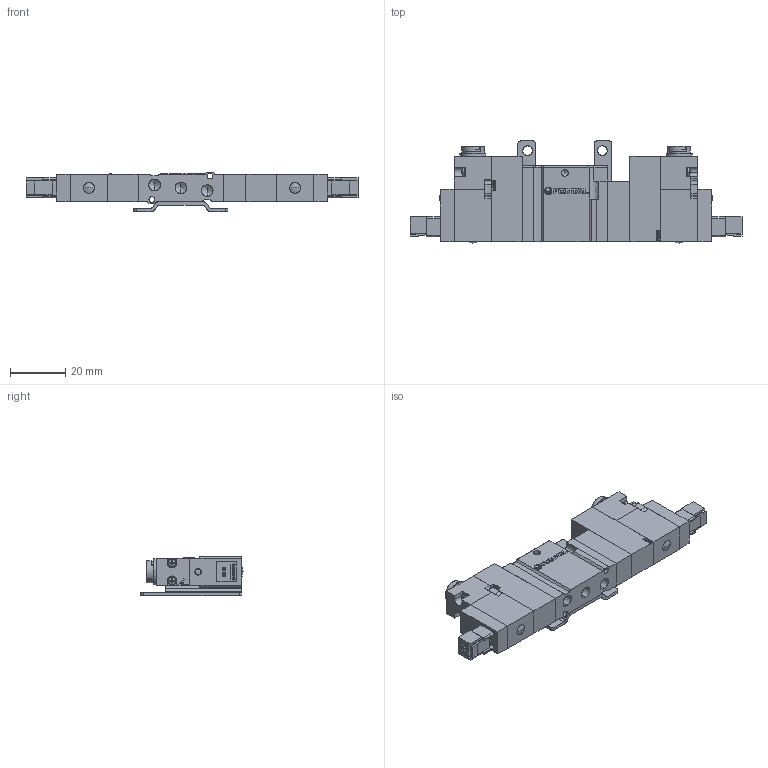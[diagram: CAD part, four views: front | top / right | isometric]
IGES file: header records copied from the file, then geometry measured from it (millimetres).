
Start section: SolidWorks IGES file using analytic representation for surfaces
Global section: file name: D:\Custom\3D繪製\ADEX\A05RS25\A05RD35#-BS-#-#-E.IGS,1; native system: 5HSolidWorks 2014; preprocessor: SolidWorks 2014; author: Chieh_Lu; date: 150725.204602; units: millimetre
Bounding box: 120 x 36.9 x 14.4 mm (x, y, z)
Surface area: 19717.4 mm2 (no closed solid volume)
Topology: 0 solids, 0 shells, 1049 faces, 8940 edges, 8904 vertices
Faces by surface type: bspline 717, revolution 332
